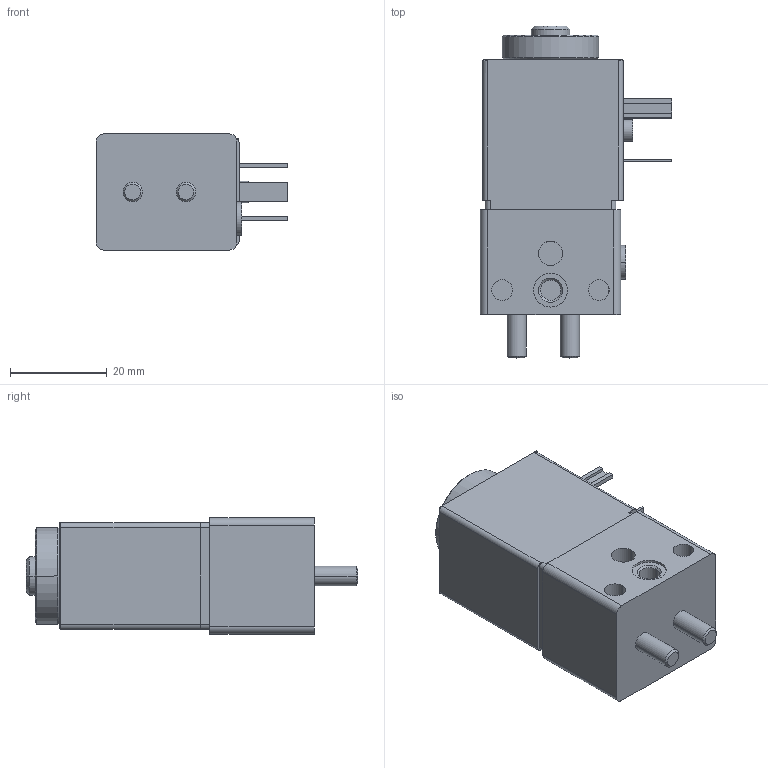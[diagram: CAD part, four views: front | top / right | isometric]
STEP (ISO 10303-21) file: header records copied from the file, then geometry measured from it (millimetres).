
FILE_DESCRIPTION((''),'2;1');
FILE_NAME('0820019006','2015-07-29T',('UAH1HC'),(''),'PRO/ENGINEER BY PARAMETRIC TECHNOLOGY CORPORATION, 2012421','PRO/ENGINEER BY PARAMETRIC TECHNOLOGY CORPORATION, 2012421','');
FILE_SCHEMA(('CONFIG_CONTROL_DESIGN','SHAPE_APPEARANCE_LAYERS_GROUPS'));
Length unit declared in the file: millimetre
Products named in the file (1): 0820019006
Bounding box: 39.5 x 68.6 x 24 mm (x, y, z)
Volume: 35782.7 mm3; surface area: 9109.5 mm2
Topology: 1 solids, 1 shells, 156 faces, 358 edges, 232 vertices
Faces by surface type: plane 78, cylinder 60, cone 18
Entity records: 4472 total; most frequent: DIRECTION 810, CARTESIAN_POINT 746, ORIENTED_EDGE 716, EDGE_CURVE 358, AXIS2_PLACEMENT_3D 296, VERTEX_POINT 232, VECTOR 218, LINE 218
